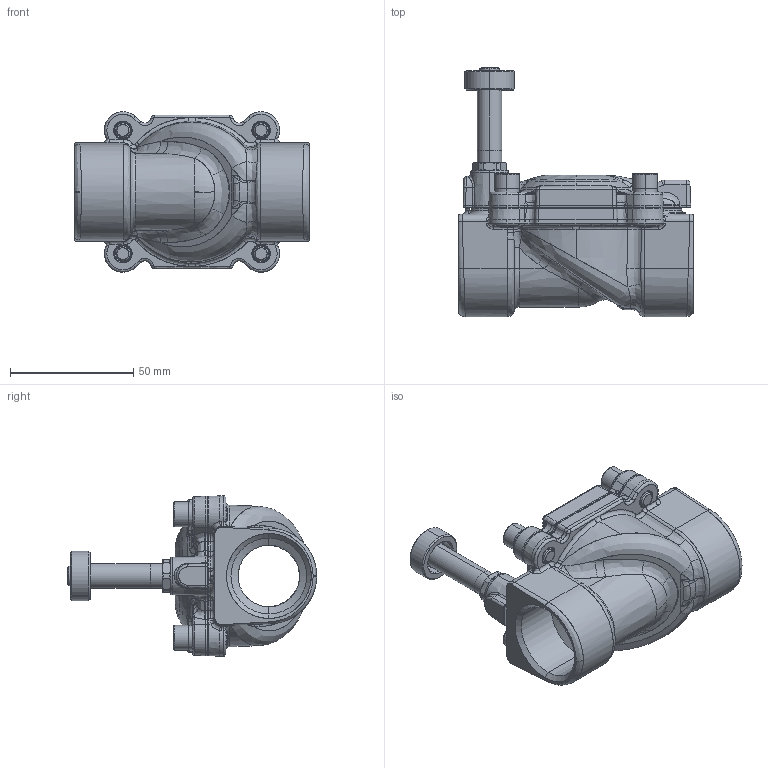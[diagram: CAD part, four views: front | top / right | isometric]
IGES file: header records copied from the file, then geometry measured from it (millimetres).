
Start section: SolidWorks IGES file using analytic representation for surfaces
Global section: file name: K:\Disegni Esecutivi\Elettrovalvole per fluidi\AZION. SERV. INDIPENDENTI\file PARTE\04F09225E0.IGS; native system: SolidWorks 2015; preprocessor: SolidWorks 2015; author: cad06; date: 150914.111241; units: millimetre
Bounding box: 95 x 101.08 x 65 mm (x, y, z)
Surface area: 36360.9 mm2 (no closed solid volume)
Topology: 0 solids, 0 shells, 895 faces, 8602 edges, 8569 vertices
Faces by surface type: bspline 607, revolution 288
